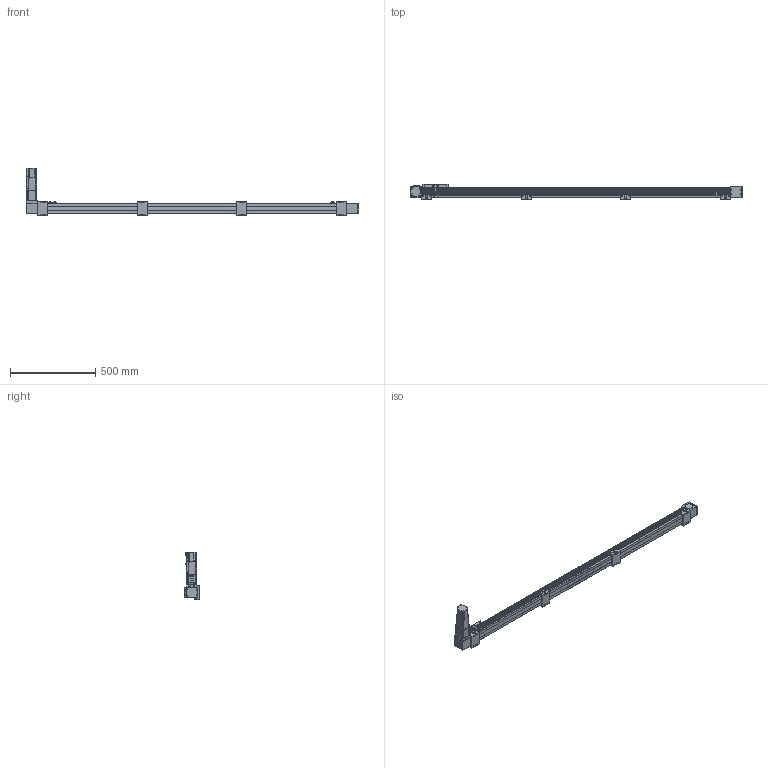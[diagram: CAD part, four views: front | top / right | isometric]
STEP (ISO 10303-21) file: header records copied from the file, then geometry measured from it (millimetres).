
FILE_DESCRIPTION(/* description */ ('STEP AP203'),/* implementation_level */ '2;1');
FILE_NAME(/* name */ 'SK60-P13-S1650-BL-T40-C1-N(0)',/* time_stamp */ '2023-04-06T03:37:19+02:00',/* author */ ('License CC BY-ND 4.0'),/* organization */ ('CADENAS'),/* preprocessor_version */ 'ST-DEVELOPER v19.3',/* originating_system */ 'PARTsolutions',/* authorisation */ ' ');
FILE_SCHEMA (('CONFIG_CONTROL_DESIGN'));
Length unit declared in the file: millimetre
Products named in the file (11): SK60-P13-S1650-BL-T40-C1-N(0); PSC140-sensor; SK60-S450_seat; SK60-S450-BL-C1_slider; SK60_body3; SK60_body6; SK60-BL_body2; T40-p1; SK60_body5; SK60_body4; SK60-S1650-BL-C1_body
Assembly tree (19 placements, depth 2):
  SK60-P13-S1650-BL-T40-C1-N(0)
    PSC140-sensor  x3
    SK60-S450_seat  x4
    SK60-S450-BL-C1_slider
    SK60_body3  x3
    SK60_body6  x2
    SK60-BL_body2  x2
    T40-p1
    SK60_body5
    SK60_body4
    SK60-S1650-BL-C1_body
Bounding box: 1950 x 90 x 278.2 mm (x, y, z)
Volume: 7245848.8 mm3; surface area: 924427.5 mm2
Topology: 19 solids, 23 shells, 922 faces, 2305 edges, 1522 vertices
Faces by surface type: plane 592, cylinder 298, cone 30, torus 2
Full cylindrical faces by diameter (mm): 2.8 x3, 3.3 x4, 4.2 x8, 4.5 x26, 4.6 x3, 4.917 x24, 5 x2, 5.478 x4, 5.5 x27, 6.5 x8, 8 x4, 8.5 x4, 9.988 x4, 10 x16, 13.556 x1, 14 x1, 14.586 x1, 19.692 x1, 38.432 x2, 43 x1, 44 x3, 47 x2, 50 x2
Entity records: 19387 total; most frequent: DIRECTION 3296, CARTESIAN_POINT 3291, ORIENTED_EDGE 3050, EDGE_CURVE 1525, AXIS2_PLACEMENT_3D 1102, LINE 1092, VECTOR 1092, VERTEX_POINT 1077
